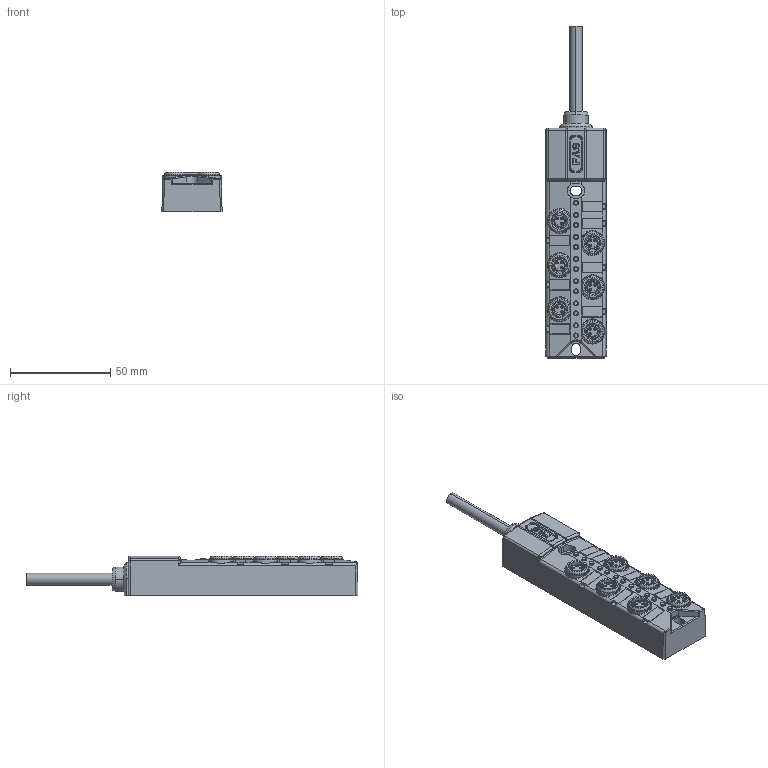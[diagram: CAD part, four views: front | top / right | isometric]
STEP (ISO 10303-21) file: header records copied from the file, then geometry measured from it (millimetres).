
FILE_DESCRIPTION (( 'STEP AP203' ), '1' );
FILE_NAME ('23P601(23P621¡¢23P641¡¢23P661¡¢23N601¡¢23N621¡¢23N641¡¢23N661).STEP', '2019-09-26T05:33:52', ( '' ), ( '' ), 'SwSTEP 2.0', 'SolidWorks 2016', '' );
FILE_SCHEMA (( 'CONFIG_CONTROL_DESIGN' ));
Products named in the file (1): 23P601(23P621﹜23P641﹜23P661﹜23N601﹜23N621﹜23N641﹜23N661)
Bounding box: 29.94 x 165.22 x 19.75 mm (x, y, z)
Volume: 59782.9 mm3; surface area: 18501.8 mm2
Topology: 1 solids, 1 shells, 1885 faces, 5110 edges, 3338 vertices
Faces by surface type: plane 666, cone 443, cylinder 433, bspline 343
Entity records: 87051 total; most frequent: CARTESIAN_POINT 42772, ORIENTED_EDGE 10216, DIRECTION 7948, EDGE_CURVE 5108, VERTEX_POINT 3338, AXIS2_PLACEMENT_3D 2837, VECTOR 2274, LINE 2274
